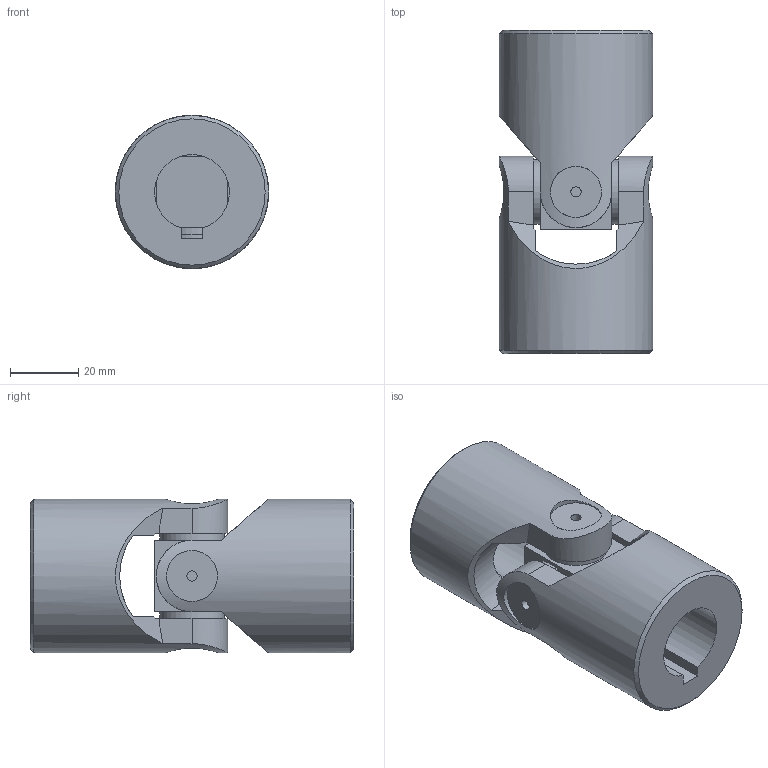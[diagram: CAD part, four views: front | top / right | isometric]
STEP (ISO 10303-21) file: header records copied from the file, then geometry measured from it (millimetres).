
FILE_DESCRIPTION(/* description */ (''),/* implementation_level */ '2;1');
FILE_NAME(/* name */ '\\SRV2016\Societa\Stefano\Disegni 3D\Dis. Clienti\0000Catalogo 3D\01Singoli G-GB\4G-1C_SG0S221C.stp',/* time_stamp */ '2021-11-10T10:33:00+01:00',/* author */ ('acquisti'),/* organization */ (''),/* preprocessor_version */ 'ST-DEVELOPER v15.6',/* originating_system */ 'Autodesk Inventor 2015',/* authorisation */ '');
FILE_SCHEMA (('AUTOMOTIVE_DESIGN { 1 0 10303 214 3 1 1 }'));
Length unit declared in the file: millimetre
Products named in the file (4): 4GA SFE; 4G MOS; 4G MOC; Assieme1
Assembly tree (3 placements, depth 2):
  Assieme1
    4GA SFE
    4G MOS
    4G MOC
Bounding box: 45 x 95 x 45 mm (x, y, z)
Volume: 100532 mm3; surface area: 26304.2 mm2
Topology: 3 solids, 3 shells, 75 faces, 181 edges, 122 vertices
Faces by surface type: plane 39, cylinder 22, cone 12, torus 2
Full cylindrical faces by diameter (mm): 3 x4, 15 x4, 19 x4, 22 x1, 23 x1, 45 x2
Entity records: 2534 total; most frequent: CARTESIAN_POINT 847, DIRECTION 321, ORIENTED_EDGE 318, EDGE_CURVE 159, AXIS2_PLACEMENT_3D 138, VERTEX_POINT 121, EDGE_LOOP 110, FACE_OUTER_BOUND 75
